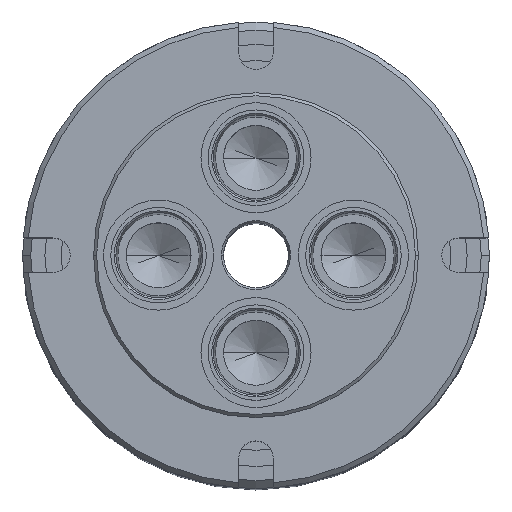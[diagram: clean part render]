
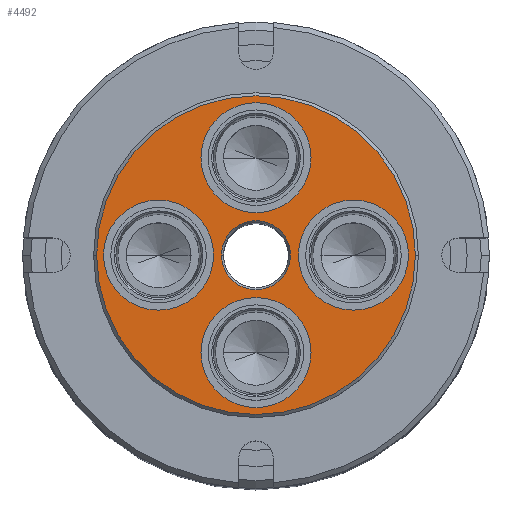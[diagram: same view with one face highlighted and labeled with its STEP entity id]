
A CAD part, top view. The second image highlights one B-rep face of the part: STEP entity #4492.
In plain terms, the highlighted planar face has unit normal (0, 0, 1).
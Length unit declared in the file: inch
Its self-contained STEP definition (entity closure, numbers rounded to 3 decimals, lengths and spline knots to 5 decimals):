
#93 = CIRCLE ( 'NONE', #96, 0.847 ) ;
#96 = AXIS2_PLACEMENT_3D ( 'NONE', #7785, #7786, #7787 ) ;
#207 = CIRCLE ( 'NONE', #210, 0.847 ) ;
#208 = AXIS2_PLACEMENT_3D ( 'NONE', #8090, #8091, #8092 ) ;
#210 = AXIS2_PLACEMENT_3D ( 'NONE', #660, #661, #662 ) ;
#225 = CIRCLE ( 'NONE', #226, 2.453 ) ;
#226 = AXIS2_PLACEMENT_3D ( 'NONE', #816, #817, #818 ) ;
#329 = CIRCLE ( 'NONE', #345, 0.531 ) ;
#345 = AXIS2_PLACEMENT_3D ( 'NONE', #1351, #1352, #1353 ) ;
#409 = CIRCLE ( 'NONE', #414, 0.847 ) ;
#414 = AXIS2_PLACEMENT_3D ( 'NONE', #1613, #1614, #1615 ) ;
#464 = CIRCLE ( 'NONE', #467, 0.847 ) ;
#467 = AXIS2_PLACEMENT_3D ( 'NONE', #6116, #6117, #6118 ) ;
#563 = CIRCLE ( 'NONE', #567, 0.847 ) ;
#567 = AXIS2_PLACEMENT_3D ( 'NONE', #6541, #6542, #6543 ) ;
#660 = CARTESIAN_POINT ( 'NONE',  ( -1.5, 0., 0. ) ) ;
#661 = DIRECTION ( 'NONE',  ( 0., 0., 1. ) ) ;
#662 = DIRECTION ( 'NONE',  ( 0., 1., 0. ) ) ;
#816 = CARTESIAN_POINT ( 'NONE',  ( 0., 0., 0. ) ) ;
#817 = DIRECTION ( 'NONE',  ( 0., 0., 1. ) ) ;
#818 = DIRECTION ( 'NONE',  ( -1., 0., 0. ) ) ;
#1351 = CARTESIAN_POINT ( 'NONE',  ( 0., 0., 0. ) ) ;
#1352 = DIRECTION ( 'NONE',  ( 0., 0., -1. ) ) ;
#1353 = DIRECTION ( 'NONE',  ( -1., 0., 0. ) ) ;
#1613 = CARTESIAN_POINT ( 'NONE',  ( 1.5, 0., 0. ) ) ;
#1614 = DIRECTION ( 'NONE',  ( 0., 0., 1. ) ) ;
#1615 = DIRECTION ( 'NONE',  ( 0., -1., 0. ) ) ;
#1780 = CIRCLE ( 'NONE', #1923, 2.453 ) ;
#1892 = AXIS2_PLACEMENT_3D ( 'NONE', #3420, #3421, #3422 ) ;
#1896 = CIRCLE ( 'NONE', #1901, 0.847 ) ;
#1901 = AXIS2_PLACEMENT_3D ( 'NONE', #5977, #5978, #5979 ) ;
#1923 = AXIS2_PLACEMENT_3D ( 'NONE', #5703, #5704, #5705 ) ;
#1996 = AXIS2_PLACEMENT_3D ( 'NONE', #3742, #3743, #3744 ) ;
#2032 = CIRCLE ( 'NONE', #1892, 0.531 ) ;
#2091 = CIRCLE ( 'NONE', #1996, 0.847 ) ;
#2145 = EDGE_LOOP ( 'NONE', ( #2740, #2741 ) ) ;
#2734 = ORIENTED_EDGE ( 'NONE', *, *, #4585, .T. ) ;
#2735 = ORIENTED_EDGE ( 'NONE', *, *, #4183, .T. ) ;
#2736 = ORIENTED_EDGE ( 'NONE', *, *, #4232, .F. ) ;
#2737 = ORIENTED_EDGE ( 'NONE', *, *, #4494, .F. ) ;
#2738 = ORIENTED_EDGE ( 'NONE', *, *, #4324, .F. ) ;
#2739 = ORIENTED_EDGE ( 'NONE', *, *, #4093, .F. ) ;
#2740 = ORIENTED_EDGE ( 'NONE', *, *, #4625, .F. ) ;
#2741 = ORIENTED_EDGE ( 'NONE', *, *, #4733, .F. ) ;
#2742 = ORIENTED_EDGE ( 'NONE', *, *, #4414, .F. ) ;
#2743 = ORIENTED_EDGE ( 'NONE', *, *, #4664, .F. ) ;
#2744 = ORIENTED_EDGE ( 'NONE', *, *, #4510, .T. ) ;
#2745 = ORIENTED_EDGE ( 'NONE', *, *, #4037, .T. ) ;
#2913 = CIRCLE ( 'NONE', #2915, 0.847 ) ;
#2915 = AXIS2_PLACEMENT_3D ( 'NONE', #7316, #7317, #7318 ) ;
#2947 = EDGE_LOOP ( 'NONE', ( #2742, #2743 ) ) ;
#2958 = EDGE_LOOP ( 'NONE', ( #2736, #2737 ) ) ;
#2961 = EDGE_LOOP ( 'NONE', ( #2738, #2739 ) ) ;
#3420 = CARTESIAN_POINT ( 'NONE',  ( 0., 0., 0. ) ) ;
#3421 = DIRECTION ( 'NONE',  ( 0., 0., -1. ) ) ;
#3422 = DIRECTION ( 'NONE',  ( -1., 0., 0. ) ) ;
#3742 = CARTESIAN_POINT ( 'NONE',  ( -1.5, 0., 0. ) ) ;
#3743 = DIRECTION ( 'NONE',  ( 0., 0., 1. ) ) ;
#3744 = DIRECTION ( 'NONE',  ( 0., 1., 0. ) ) ;
#4037 = EDGE_CURVE ( 'NONE', #5415, #5420, #1780, .T. ) ;
#4093 = EDGE_CURVE ( 'NONE', #5362, #5357, #1896, .T. ) ;
#4183 = EDGE_CURVE ( 'NONE', #5288, #5221, #2032, .T. ) ;
#4232 = EDGE_CURVE ( 'NONE', #5305, #5428, #2091, .T. ) ;
#4324 = EDGE_CURVE ( 'NONE', #5357, #5362, #2913, .T. ) ;
#4414 = EDGE_CURVE ( 'NONE', #5412, #5401, #93, .T. ) ;
#4461 = EDGE_LOOP ( 'NONE', ( #2734, #2735 ) ) ;
#4492 = ADVANCED_FACE ( 'NONE', ( #8082, #8083, #8089, #8064, #8081, #8087 ), #8088, .F. ) ;
#4494 = EDGE_CURVE ( 'NONE', #5428, #5305, #207, .T. ) ;
#4510 = EDGE_CURVE ( 'NONE', #5420, #5415, #225, .T. ) ;
#4585 = EDGE_CURVE ( 'NONE', #5221, #5288, #329, .T. ) ;
#4625 = EDGE_CURVE ( 'NONE', #5388, #5389, #409, .T. ) ;
#4664 = EDGE_CURVE ( 'NONE', #5401, #5412, #464, .T. ) ;
#4733 = EDGE_CURVE ( 'NONE', #5389, #5388, #563, .T. ) ;
#5221 = VERTEX_POINT ( 'NONE', #6714 ) ;
#5288 = VERTEX_POINT ( 'NONE', #6781 ) ;
#5305 = VERTEX_POINT ( 'NONE', #6798 ) ;
#5357 = VERTEX_POINT ( 'NONE', #6850 ) ;
#5362 = VERTEX_POINT ( 'NONE', #6855 ) ;
#5388 = VERTEX_POINT ( 'NONE', #6881 ) ;
#5389 = VERTEX_POINT ( 'NONE', #6882 ) ;
#5401 = VERTEX_POINT ( 'NONE', #6894 ) ;
#5412 = VERTEX_POINT ( 'NONE', #6905 ) ;
#5415 = VERTEX_POINT ( 'NONE', #6908 ) ;
#5420 = VERTEX_POINT ( 'NONE', #6913 ) ;
#5428 = VERTEX_POINT ( 'NONE', #6921 ) ;
#5574 = EDGE_LOOP ( 'NONE', ( #2744, #2745 ) ) ;
#5703 = CARTESIAN_POINT ( 'NONE',  ( 0., 0., 0. ) ) ;
#5704 = DIRECTION ( 'NONE',  ( 0., 0., 1. ) ) ;
#5705 = DIRECTION ( 'NONE',  ( -1., 0., 0. ) ) ;
#5977 = CARTESIAN_POINT ( 'NONE',  ( 0., -1.5, 0. ) ) ;
#5978 = DIRECTION ( 'NONE',  ( 0., 0., 1. ) ) ;
#5979 = DIRECTION ( 'NONE',  ( -1., 0., 0. ) ) ;
#6116 = CARTESIAN_POINT ( 'NONE',  ( 0., 1.5, 0. ) ) ;
#6117 = DIRECTION ( 'NONE',  ( 0., 0., 1. ) ) ;
#6118 = DIRECTION ( 'NONE',  ( 1., 0., 0. ) ) ;
#6541 = CARTESIAN_POINT ( 'NONE',  ( 1.5, 0., 0. ) ) ;
#6542 = DIRECTION ( 'NONE',  ( 0., 0., 1. ) ) ;
#6543 = DIRECTION ( 'NONE',  ( 0., -1., 0. ) ) ;
#6714 = CARTESIAN_POINT ( 'NONE',  ( 0.531, 0., 0. ) ) ;
#6781 = CARTESIAN_POINT ( 'NONE',  ( -0.531, 0., 0. ) ) ;
#6798 = CARTESIAN_POINT ( 'NONE',  ( -0.653, 0., 0. ) ) ;
#6850 = CARTESIAN_POINT ( 'NONE',  ( 0.847, -1.5, 0. ) ) ;
#6855 = CARTESIAN_POINT ( 'NONE',  ( -0.847, -1.5, 0. ) ) ;
#6881 = CARTESIAN_POINT ( 'NONE',  ( 2.347, 0., 0. ) ) ;
#6882 = CARTESIAN_POINT ( 'NONE',  ( 0.653, 0., 0. ) ) ;
#6894 = CARTESIAN_POINT ( 'NONE',  ( -0.847, 1.5, 0. ) ) ;
#6905 = CARTESIAN_POINT ( 'NONE',  ( 0.847, 1.5, 0. ) ) ;
#6908 = CARTESIAN_POINT ( 'NONE',  ( 2.453, 0., 0. ) ) ;
#6913 = CARTESIAN_POINT ( 'NONE',  ( -2.453, 0., 0. ) ) ;
#6921 = CARTESIAN_POINT ( 'NONE',  ( -2.347, 0., 0. ) ) ;
#7316 = CARTESIAN_POINT ( 'NONE',  ( 0., -1.5, 0. ) ) ;
#7317 = DIRECTION ( 'NONE',  ( 0., 0., 1. ) ) ;
#7318 = DIRECTION ( 'NONE',  ( -1., 0., 0. ) ) ;
#7785 = CARTESIAN_POINT ( 'NONE',  ( 0., 1.5, 0. ) ) ;
#7786 = DIRECTION ( 'NONE',  ( 0., 0., 1. ) ) ;
#7787 = DIRECTION ( 'NONE',  ( 1., 0., 0. ) ) ;
#8064 = FACE_BOUND ( 'NONE', #2145, .T. ) ;
#8081 = FACE_BOUND ( 'NONE', #2947, .T. ) ;
#8082 = FACE_BOUND ( 'NONE', #4461, .T. ) ;
#8083 = FACE_BOUND ( 'NONE', #2958, .T. ) ;
#8087 = FACE_OUTER_BOUND ( 'NONE', #5574, .T. ) ;
#8088 = PLANE ( 'NONE',  #208 ) ;
#8089 = FACE_BOUND ( 'NONE', #2961, .T. ) ;
#8090 = CARTESIAN_POINT ( 'NONE',  ( 0., 0., 0. ) ) ;
#8091 = DIRECTION ( 'NONE',  ( 0., 0., -1. ) ) ;
#8092 = DIRECTION ( 'NONE',  ( -1., 0., 0. ) ) ;
